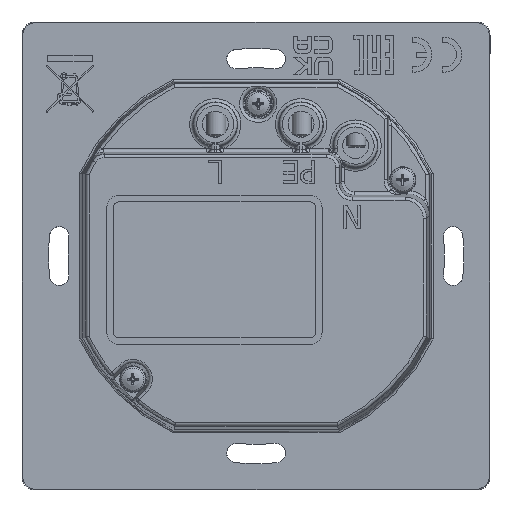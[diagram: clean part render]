
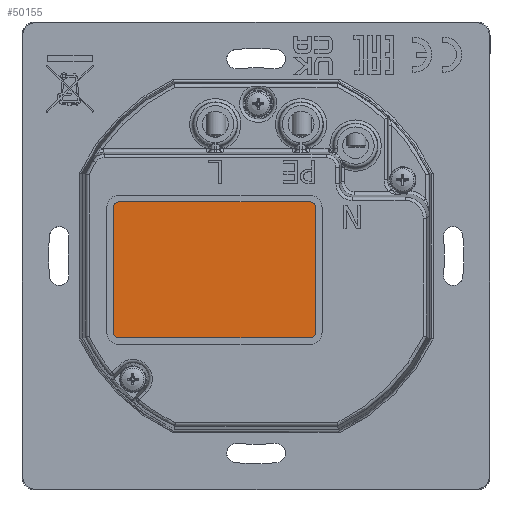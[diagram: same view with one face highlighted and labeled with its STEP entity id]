
A CAD part, top view. The second image highlights one B-rep face of the part: STEP entity #50155.
In plain terms, the highlighted planar face has unit normal (0, 0, 1) as drawn and (0, 1, 0) by its records, which use the part's own axes.
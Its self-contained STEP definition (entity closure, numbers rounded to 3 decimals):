
#3926=PLANE('',#54027);
#5946=FACE_OUTER_BOUND('',#8940,.T.);
#8940=EDGE_LOOP('',(#39757,#39758,#39759,#39760,#39761,#39762,#39763,#39764));
#12306=LINE('',#81867,#16574);
#12310=LINE('',#81879,#16578);
#12314=LINE('',#81891,#16582);
#12318=LINE('',#81902,#16586);
#16574=VECTOR('',#61172,19.);
#16578=VECTOR('',#61184,29.);
#16582=VECTOR('',#61196,19.);
#16586=VECTOR('',#61208,29.);
#19851=CIRCLE('',#53653,0.8);
#19853=CIRCLE('',#53657,0.8);
#19855=CIRCLE('',#53661,0.8);
#19857=CIRCLE('',#53665,0.8);
#22430=VERTEX_POINT('',#81857);
#22431=VERTEX_POINT('',#81858);
#22434=VERTEX_POINT('',#81866);
#22436=VERTEX_POINT('',#81872);
#22438=VERTEX_POINT('',#81878);
#22440=VERTEX_POINT('',#81884);
#22442=VERTEX_POINT('',#81890);
#22444=VERTEX_POINT('',#81896);
#28325=EDGE_CURVE('',#22430,#22431,#19851,.T.);
#28329=EDGE_CURVE('',#22434,#22430,#12306,.T.);
#28332=EDGE_CURVE('',#22436,#22434,#19853,.T.);
#28335=EDGE_CURVE('',#22438,#22436,#12310,.T.);
#28338=EDGE_CURVE('',#22440,#22438,#19855,.T.);
#28341=EDGE_CURVE('',#22442,#22440,#12314,.T.);
#28344=EDGE_CURVE('',#22444,#22442,#19857,.T.);
#28347=EDGE_CURVE('',#22431,#22444,#12318,.T.);
#39757=ORIENTED_EDGE('',*,*,#28325,.T.);
#39758=ORIENTED_EDGE('',*,*,#28347,.T.);
#39759=ORIENTED_EDGE('',*,*,#28344,.T.);
#39760=ORIENTED_EDGE('',*,*,#28341,.T.);
#39761=ORIENTED_EDGE('',*,*,#28338,.T.);
#39762=ORIENTED_EDGE('',*,*,#28335,.T.);
#39763=ORIENTED_EDGE('',*,*,#28332,.T.);
#39764=ORIENTED_EDGE('',*,*,#28329,.T.);
#50155=ADVANCED_FACE('',(#5946),#3926,.T.);
#53653=AXIS2_PLACEMENT_3D('',#81859,#61164,#61165);
#53657=AXIS2_PLACEMENT_3D('',#81873,#61177,#61178);
#53661=AXIS2_PLACEMENT_3D('',#81885,#61189,#61190);
#53665=AXIS2_PLACEMENT_3D('',#81897,#61201,#61202);
#54027=AXIS2_PLACEMENT_3D('',#84853,#62208,#62209);
#61164=DIRECTION('center_axis',(0.,1.,0.));
#61165=DIRECTION('ref_axis',(1.,0.,0.));
#61172=DIRECTION('',(0.,0.,-1.));
#61177=DIRECTION('center_axis',(0.,1.,0.));
#61178=DIRECTION('ref_axis',(0.,0.,1.));
#61184=DIRECTION('',(1.,0.,0.));
#61189=DIRECTION('center_axis',(0.,1.,0.));
#61190=DIRECTION('ref_axis',(-1.,0.,0.));
#61196=DIRECTION('',(0.,0.,1.));
#61201=DIRECTION('center_axis',(0.,1.,0.));
#61202=DIRECTION('ref_axis',(0.,0.,-1.));
#61208=DIRECTION('',(-1.,0.,0.));
#62208=DIRECTION('center_axis',(0.,1.,0.));
#62209=DIRECTION('ref_axis',(0.,0.,1.));
#81857=CARTESIAN_POINT('',(-20.305,24.7,-43.535));
#81858=CARTESIAN_POINT('',(-21.105,24.7,-44.335));
#81859=CARTESIAN_POINT('Origin',(-21.105,24.7,-43.535));
#81866=CARTESIAN_POINT('',(-20.305,24.7,-24.535));
#81867=CARTESIAN_POINT('',(-20.305,24.7,-24.535));
#81872=CARTESIAN_POINT('',(-21.105,24.7,-23.735));
#81873=CARTESIAN_POINT('Origin',(-21.105,24.7,-24.535));
#81878=CARTESIAN_POINT('',(-50.105,24.7,-23.735));
#81879=CARTESIAN_POINT('',(-50.105,24.7,-23.735));
#81884=CARTESIAN_POINT('',(-50.905,24.7,-24.535));
#81885=CARTESIAN_POINT('Origin',(-50.105,24.7,-24.535));
#81890=CARTESIAN_POINT('',(-50.905,24.7,-43.535));
#81891=CARTESIAN_POINT('',(-50.905,24.7,-43.535));
#81896=CARTESIAN_POINT('',(-50.105,24.7,-44.335));
#81897=CARTESIAN_POINT('Origin',(-50.105,24.7,-43.535));
#81902=CARTESIAN_POINT('',(-21.105,24.7,-44.335));
#84853=CARTESIAN_POINT('Origin',(-29.281,24.7,-36.2));
